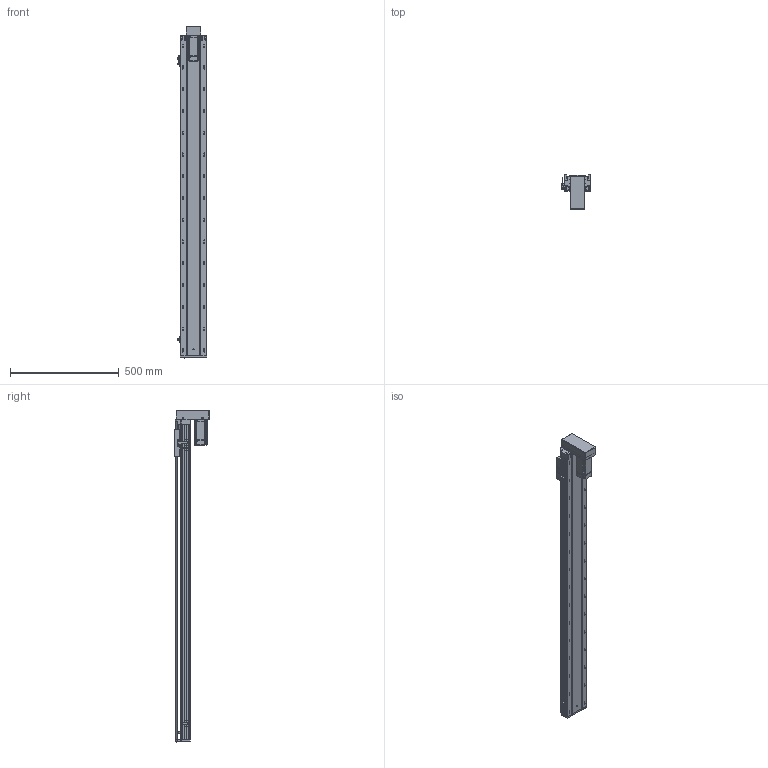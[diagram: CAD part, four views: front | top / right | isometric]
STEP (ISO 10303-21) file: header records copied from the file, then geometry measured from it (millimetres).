
FILE_DESCRIPTION (( 'STEP AP203' ), '1' );
FILE_NAME ('RY120-L2020-1000-BK.SLDASM_1250.step', '2021-03-12T07:20:35', ( '盈信电脑' ), ( '东莞市道滘镇水果街19号' ), 'SwSTEP 2.0', 'SolidWorks 2012', '' );
FILE_SCHEMA (( 'CONFIG_CONTROL_DESIGN' ));
Products named in the file (18): 同步轮3M34齿宽15单边凸台; RY80肮祭湍芢雄輸; 侂狟400W侜督萇儂; 15; 滅袉蝶18-24; RY120转拆电端丝杆支撑座(20丝杆，7002轴承); RY120外置感应片(140共用）; RY120綴裔啣; 覜茼ん672; RY120臏賑輸(20蹟譫); 滅袉蝶18-10; RY120-1000-BK蛌殏倰第菁釱_1250; RY120-1000-BK蛌殏倰第奻裔啣_1250; RY120-L2020-1000-BK.SLDASM_1250; RY120-400W萇儂傷-BK; RY120下折折电机安装板; RY80肮祭湍覃踡啣; RY120狟殏萇儂欶
Assembly tree (21 placements, depth 4):
  RY120-L2020-1000-BK.SLDASM_1250
    RY120-1000-BK蛌殏倰第菁釱_1250
    RY120-1000-BK蛌殏倰第奻裔啣_1250
    RY120臏賑輸(20蹟譫)
    RY120綴裔啣
    覜茼ん672  x3
    滅袉蝶18-10
    滅袉蝶18-24  x2
    RY120外置感应片(140共用）
    RY120转拆电端丝杆支撑座(20丝杆，7002轴承)
    RY120-400W萇儂傷-BK
      侂狟400W侜督萇儂
        15
      RY80肮祭湍芢雄輸  x2
      同步轮3M34齿宽15单边凸台
      RY80肮祭湍覃踡啣
      RY120狟殏萇儂欶
      RY120下折折电机安装板
Bounding box: 135.7 x 159.5 x 1525 mm (x, y, z)
Volume: 4092979.9 mm3; surface area: 1540423.6 mm2
Topology: 20 solids, 20 shells, 3340 faces, 9199 edges, 5863 vertices
Faces by surface type: cylinder 1515, plane 1437, cone 283, bspline 105
Entity records: 112119 total; most frequent: CARTESIAN_POINT 31352, ORIENTED_EDGE 16882, DIRECTION 15968, EDGE_CURVE 8441, AXIS2_PLACEMENT_3D 5652, VERTEX_POINT 5487, LINE 4664, VECTOR 4664
